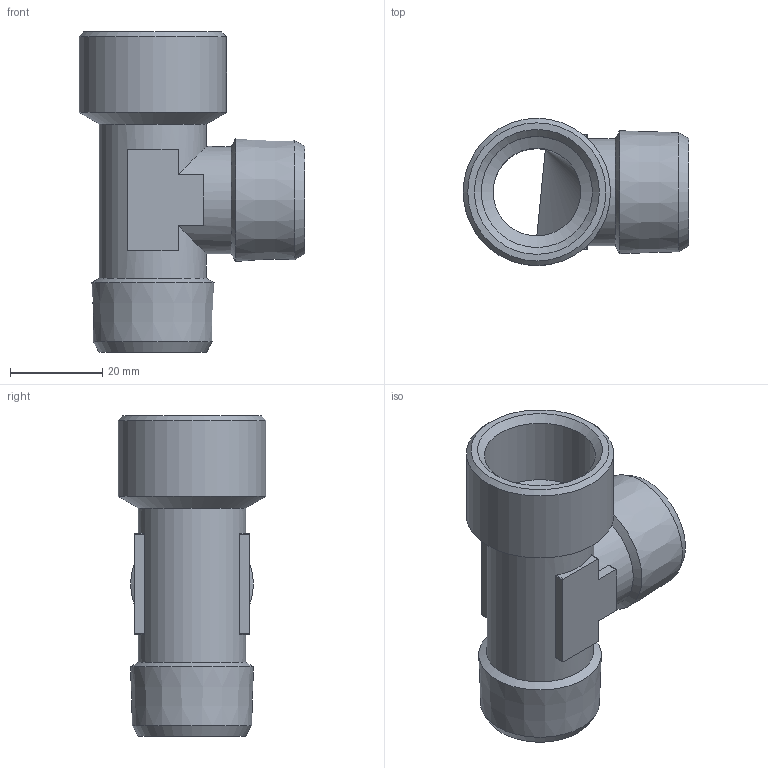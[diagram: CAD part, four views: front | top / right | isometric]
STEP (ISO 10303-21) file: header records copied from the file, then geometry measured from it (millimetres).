
FILE_DESCRIPTION(/* description */ (''),/* implementation_level */ '2;1');
FILE_NAME(/* name */ '40306_118_G34_R34_04.10.16',/* time_stamp */ '2016-10-04T12:25:09+02:00',/* author */ (''),/* organization */ (''),/* preprocessor_version */ 'ST-DEVELOPER v16.5',/* originating_system */ 'HiCAD 2016 2101.0 Build 254',/* authorisation */ '');
FILE_SCHEMA (('AUTOMOTIVE_DESIGN { 1 0 10303 214 1 1 1 1 }'));
Length unit declared in the file: millimetre
Products named in the file (2): Root; 40306
Assembly tree (1 placements, depth 2):
  Root
    40306
Bounding box: 49 x 32 x 69.5 mm (x, y, z)
Volume: 20707.2 mm3; surface area: 14129.2 mm2
Topology: 1 solids, 1 shells, 55 faces, 152 edges, 98 vertices
Faces by surface type: cylinder 22, plane 21, cone 12
Full cylindrical faces by diameter (mm): 19 x2, 23.3 x2, 24.117 x1, 32 x1
Entity records: 5548 total; most frequent: CARTESIAN_POINT 3015, DIRECTION 264, PRESENTATION_STYLE_ASSIGNMENT 249, COLOUR_RGB 249, DRAUGHTING_PRE_DEFINED_CURVE_FONT 248, CURVE_STYLE 248, OVER_RIDING_STYLED_ITEM 248, ORIENTED_EDGE 248
